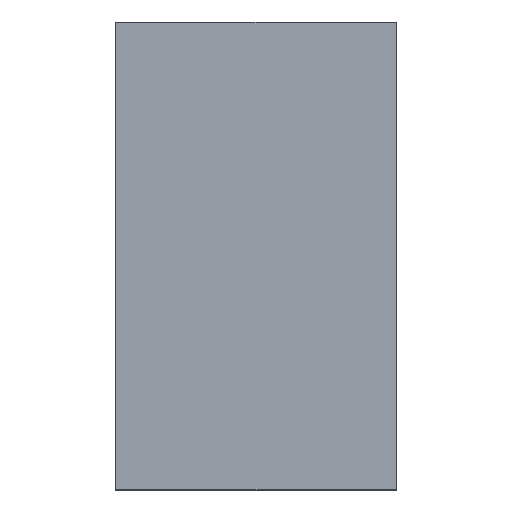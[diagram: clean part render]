
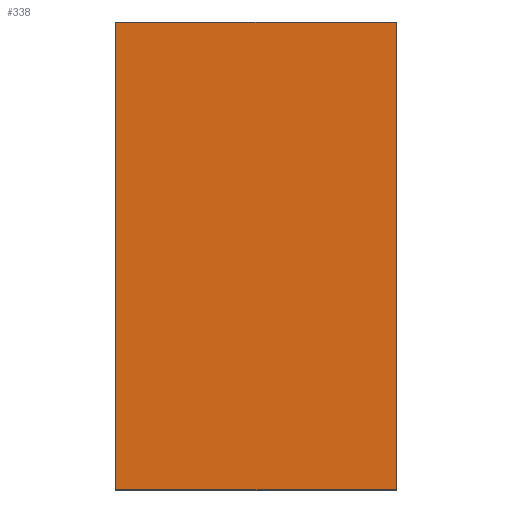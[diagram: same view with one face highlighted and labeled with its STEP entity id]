
A CAD part, top view. The second image highlights one B-rep face of the part: STEP entity #338.
In plain terms, the highlighted planar face has unit normal (0, 0, 1).
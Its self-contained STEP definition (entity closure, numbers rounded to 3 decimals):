
#24 = VERTEX_POINT('',#25);
#25 = CARTESIAN_POINT('',(-45.,-75.,20.));
#32 = PLANE('',#33);
#33 = AXIS2_PLACEMENT_3D('',#34,#35,#36);
#34 = CARTESIAN_POINT('',(-45.,-75.,0.));
#35 = DIRECTION('',(0.,1.,0.));
#36 = DIRECTION('',(1.,0.,0.));
#44 = PLANE('',#45);
#45 = AXIS2_PLACEMENT_3D('',#46,#47,#48);
#46 = CARTESIAN_POINT('',(-45.,75.,0.));
#47 = DIRECTION('',(1.,0.,-0.));
#48 = DIRECTION('',(0.,-1.,0.));
#56 = EDGE_CURVE('',#24,#57,#59,.T.);
#57 = VERTEX_POINT('',#58);
#58 = CARTESIAN_POINT('',(45.,-75.,20.));
#59 = SURFACE_CURVE('',#60,(#64,#71),.PCURVE_S1.);
#60 = LINE('',#61,#62);
#61 = CARTESIAN_POINT('',(-45.,-75.,20.));
#62 = VECTOR('',#63,1.);
#63 = DIRECTION('',(1.,0.,0.));
#64 = PCURVE('',#32,#65);
#65 = DEFINITIONAL_REPRESENTATION('',(#66),#70);
#66 = LINE('',#67,#68);
#67 = CARTESIAN_POINT('',(0.,-20.));
#68 = VECTOR('',#69,1.);
#69 = DIRECTION('',(1.,0.));
#70 = ( GEOMETRIC_REPRESENTATION_CONTEXT(2) 
PARAMETRIC_REPRESENTATION_CONTEXT() REPRESENTATION_CONTEXT('2D SPACE',''
  ) );
#71 = PCURVE('',#72,#77);
#72 = PLANE('',#73);
#73 = AXIS2_PLACEMENT_3D('',#74,#75,#76);
#74 = CARTESIAN_POINT('',(0.,0.,20.));
#75 = DIRECTION('',(0.,0.,1.));
#76 = DIRECTION('',(1.,0.,-0.));
#77 = DEFINITIONAL_REPRESENTATION('',(#78),#82);
#78 = LINE('',#79,#80);
#79 = CARTESIAN_POINT('',(-45.,-75.));
#80 = VECTOR('',#81,1.);
#81 = DIRECTION('',(1.,0.));
#82 = ( GEOMETRIC_REPRESENTATION_CONTEXT(2) 
PARAMETRIC_REPRESENTATION_CONTEXT() REPRESENTATION_CONTEXT('2D SPACE',''
  ) );
#100 = PLANE('',#101);
#101 = AXIS2_PLACEMENT_3D('',#102,#103,#104);
#102 = CARTESIAN_POINT('',(45.,-75.,0.));
#103 = DIRECTION('',(-1.,0.,0.));
#104 = DIRECTION('',(0.,1.,0.));
#142 = EDGE_CURVE('',#57,#143,#145,.T.);
#143 = VERTEX_POINT('',#144);
#144 = CARTESIAN_POINT('',(45.,75.,20.));
#145 = SURFACE_CURVE('',#146,(#150,#157),.PCURVE_S1.);
#146 = LINE('',#147,#148);
#147 = CARTESIAN_POINT('',(45.,-75.,20.));
#148 = VECTOR('',#149,1.);
#149 = DIRECTION('',(0.,1.,0.));
#150 = PCURVE('',#100,#151);
#151 = DEFINITIONAL_REPRESENTATION('',(#152),#156);
#152 = LINE('',#153,#154);
#153 = CARTESIAN_POINT('',(0.,-20.));
#154 = VECTOR('',#155,1.);
#155 = DIRECTION('',(1.,0.));
#156 = ( GEOMETRIC_REPRESENTATION_CONTEXT(2) 
PARAMETRIC_REPRESENTATION_CONTEXT() REPRESENTATION_CONTEXT('2D SPACE',''
  ) );
#157 = PCURVE('',#72,#158);
#158 = DEFINITIONAL_REPRESENTATION('',(#159),#163);
#159 = LINE('',#160,#161);
#160 = CARTESIAN_POINT('',(45.,-75.));
#161 = VECTOR('',#162,1.);
#162 = DIRECTION('',(0.,1.));
#163 = ( GEOMETRIC_REPRESENTATION_CONTEXT(2) 
PARAMETRIC_REPRESENTATION_CONTEXT() REPRESENTATION_CONTEXT('2D SPACE',''
  ) );
#181 = PLANE('',#182);
#182 = AXIS2_PLACEMENT_3D('',#183,#184,#185);
#183 = CARTESIAN_POINT('',(45.,75.,0.));
#184 = DIRECTION('',(0.,-1.,0.));
#185 = DIRECTION('',(-1.,0.,0.));
#218 = EDGE_CURVE('',#143,#219,#221,.T.);
#219 = VERTEX_POINT('',#220);
#220 = CARTESIAN_POINT('',(-45.,75.,20.));
#221 = SURFACE_CURVE('',#222,(#226,#233),.PCURVE_S1.);
#222 = LINE('',#223,#224);
#223 = CARTESIAN_POINT('',(45.,75.,20.));
#224 = VECTOR('',#225,1.);
#225 = DIRECTION('',(-1.,0.,0.));
#226 = PCURVE('',#181,#227);
#227 = DEFINITIONAL_REPRESENTATION('',(#228),#232);
#228 = LINE('',#229,#230);
#229 = CARTESIAN_POINT('',(0.,-20.));
#230 = VECTOR('',#231,1.);
#231 = DIRECTION('',(1.,0.));
#232 = ( GEOMETRIC_REPRESENTATION_CONTEXT(2) 
PARAMETRIC_REPRESENTATION_CONTEXT() REPRESENTATION_CONTEXT('2D SPACE',''
  ) );
#233 = PCURVE('',#72,#234);
#234 = DEFINITIONAL_REPRESENTATION('',(#235),#239);
#235 = LINE('',#236,#237);
#236 = CARTESIAN_POINT('',(45.,75.));
#237 = VECTOR('',#238,1.);
#238 = DIRECTION('',(-1.,0.));
#239 = ( GEOMETRIC_REPRESENTATION_CONTEXT(2) 
PARAMETRIC_REPRESENTATION_CONTEXT() REPRESENTATION_CONTEXT('2D SPACE',''
  ) );
#289 = EDGE_CURVE('',#219,#24,#290,.T.);
#290 = SURFACE_CURVE('',#291,(#295,#302),.PCURVE_S1.);
#291 = LINE('',#292,#293);
#292 = CARTESIAN_POINT('',(-45.,75.,20.));
#293 = VECTOR('',#294,1.);
#294 = DIRECTION('',(0.,-1.,0.));
#295 = PCURVE('',#44,#296);
#296 = DEFINITIONAL_REPRESENTATION('',(#297),#301);
#297 = LINE('',#298,#299);
#298 = CARTESIAN_POINT('',(0.,-20.));
#299 = VECTOR('',#300,1.);
#300 = DIRECTION('',(1.,0.));
#301 = ( GEOMETRIC_REPRESENTATION_CONTEXT(2) 
PARAMETRIC_REPRESENTATION_CONTEXT() REPRESENTATION_CONTEXT('2D SPACE',''
  ) );
#302 = PCURVE('',#72,#303);
#303 = DEFINITIONAL_REPRESENTATION('',(#304),#308);
#304 = LINE('',#305,#306);
#305 = CARTESIAN_POINT('',(-45.,75.));
#306 = VECTOR('',#307,1.);
#307 = DIRECTION('',(0.,-1.));
#308 = ( GEOMETRIC_REPRESENTATION_CONTEXT(2) 
PARAMETRIC_REPRESENTATION_CONTEXT() REPRESENTATION_CONTEXT('2D SPACE',''
  ) );
#338 = ADVANCED_FACE('',(#339),#72,.T.);
#339 = FACE_BOUND('',#340,.T.);
#340 = EDGE_LOOP('',(#341,#342,#343,#344));
#341 = ORIENTED_EDGE('',*,*,#56,.T.);
#342 = ORIENTED_EDGE('',*,*,#142,.T.);
#343 = ORIENTED_EDGE('',*,*,#218,.T.);
#344 = ORIENTED_EDGE('',*,*,#289,.T.);
